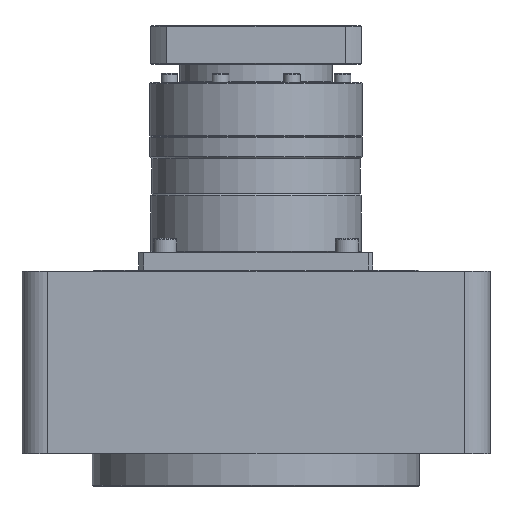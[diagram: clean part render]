
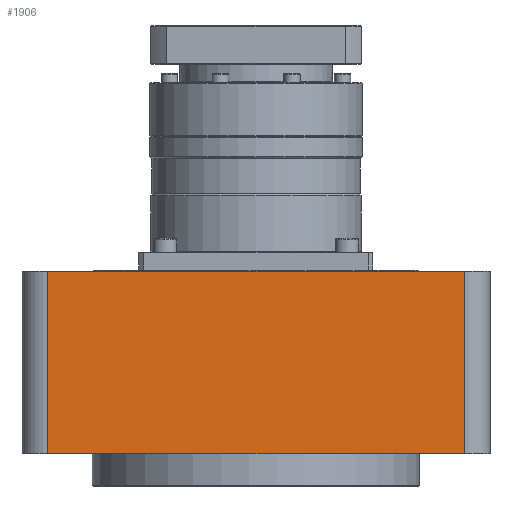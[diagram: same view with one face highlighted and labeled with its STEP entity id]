
A CAD part, left-side view. The second image highlights one B-rep face of the part: STEP entity #1906.
In plain terms, the highlighted planar face has unit normal (-1, 0, 0).
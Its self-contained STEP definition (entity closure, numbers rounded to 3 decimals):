
#1346=CARTESIAN_POINT('',(0.,11.,78.0));
#1347=VERTEX_POINT('',#1346);
#1355=CARTESIAN_POINT('',(0.,11.,0.0));
#1356=VERTEX_POINT('',#1355);
#1357=CARTESIAN_POINT('',(0.,11.,78.0));
#1358=DIRECTION('',(0.0,0.0,-1.0));
#1359=VECTOR('',#1358,78.0);
#1360=LINE('',#1357,#1359);
#1361=EDGE_CURVE('',#1347,#1356,#1360,.T.);
#1418=CARTESIAN_POINT('',(0.,189.0,0.0));
#1419=VERTEX_POINT('',#1418);
#1420=CARTESIAN_POINT('',(0.,189.0,0.0));
#1421=DIRECTION('',(0.0,-1.0,0.0));
#1422=VECTOR('',#1421,178.0);
#1423=LINE('',#1420,#1422);
#1424=EDGE_CURVE('',#1419,#1356,#1423,.T.);
#1642=CARTESIAN_POINT('',(0.,189.0,78.0));
#1643=VERTEX_POINT('',#1642);
#1653=CARTESIAN_POINT('',(0.,189.0,0.0));
#1654=DIRECTION('',(0.0,0.0,1.0));
#1655=VECTOR('',#1654,78.0);
#1656=LINE('',#1653,#1655);
#1657=EDGE_CURVE('',#1419,#1643,#1656,.T.);
#1890=CARTESIAN_POINT('',(0.0,0.0,0.0));
#1891=DIRECTION('',(-1.0,0.0,0.0));
#1892=DIRECTION('',(0.0,0.0,1.0));
#1893=AXIS2_PLACEMENT_3D('',#1890,#1891,#1892);
#1894=PLANE('',#1893);
#1895=ORIENTED_EDGE('',*,*,#1361,.F.);
#1896=CARTESIAN_POINT('',(0.,11.0,78.0));
#1897=DIRECTION('',(0.0,1.0,0.0));
#1898=VECTOR('',#1897,178.0);
#1899=LINE('',#1896,#1898);
#1900=EDGE_CURVE('',#1347,#1643,#1899,.T.);
#1901=ORIENTED_EDGE('',*,*,#1900,.T.);
#1902=ORIENTED_EDGE('',*,*,#1657,.F.);
#1903=ORIENTED_EDGE('',*,*,#1424,.T.);
#1904=EDGE_LOOP('',(#1895,#1901,#1902,#1903));
#1905=FACE_OUTER_BOUND('',#1904,.T.);
#1906=ADVANCED_FACE('',(#1905),#1894,.T.);
